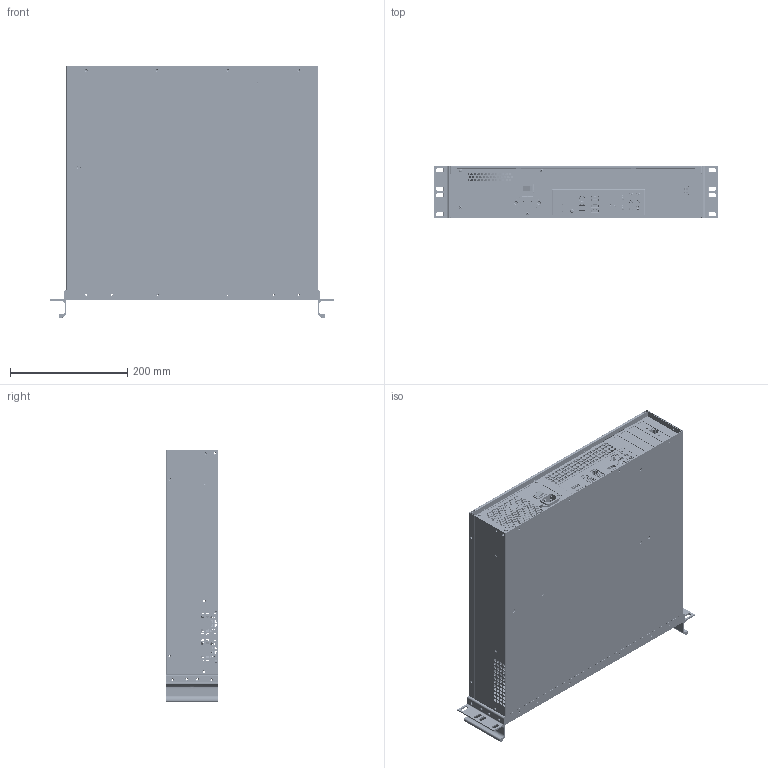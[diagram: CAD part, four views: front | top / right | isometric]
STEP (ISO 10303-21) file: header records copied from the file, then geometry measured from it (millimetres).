
FILE_DESCRIPTION (( 'STEP AP214' ), '1' );
FILE_NAME ('鼫謼歑 IS-R-50.STEP', '2024-09-22T09:56:58', ( '' ), ( '' ), 'SwSTEP 2.0', 'SolidWorks 2024', '' );
FILE_SCHEMA (( 'AUTOMOTIVE_DESIGN' ));
Length unit declared in the file: millimetre
Products named in the file (59): JAF3331-51G3-outter shield.STEP; Ventax 119x119x26.IGS; USB 3 (4).step; USB Type-A  & Type-C .step; UB11123-HFD1-4F.stp-1; Switch on-off.IGS; 92000A114_Passivated 18-8 Stainless Steel Pan Head Phillips Screws.step-2; AS1166 PCIex sata x4_gecnjq; MSI-B550M-Mortar-WiFi-IO-Shield.step; JAF3331-51G3.STEP; Outer shell 01.step; JAF3331-51G3-FRONT SUPPRT.STEP; USB Type A contacts.step; ATX Power Supply v1.0; JFM38U1B-B3V9-4F.stp-1; Панель задняя; POF ASM.STEP; SMA Jack Bulkhead small nut; JAF3331-51G3-all pins.STEP; JAF3331-51G3ports.STEP; PCIe Brakets_PCIE card IO panel lowprofil.step-1_gecnjq; Box v1.0 - ATX Power Supply.IGS; Сборка14^gigabyte b360n wifi; RJ45 v1 v2.step-1; JAF3331-51G3; pan head cross recess screw_iso_ISO 7045 - M3 x 6 - Z - 6N; eBom-FreeParts.step; JAF3331-51G3-back part.STEP; Foam Backing.step; Cover v1.0 - ATX Power Supply.IGS; PCIe_x4_LowProfile.step-1; сервер IS-R-50; Grelha Prot Vent 120.IGS; Платформа; Back Pins.step; molex_0471510001.stp-1; IEC Plug.IGS; HeatSink.step-1; molex_0471510001.stp-2; 40x40x 20 cooler v4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
Assembly tree (77 placements, depth 6):
  сервер IS-R-50
    Панель задняя
    Панель передняя
    Платформа
    Крышка
    40x40x 20 cooler v4
    Панель USB
    Фланец  x2
    ATX Power Supply v1.0
      ATX Power Supply v1.0.IGS
        Box v1.0 - ATX Power Supply.IGS
        Cover v1.0 - ATX Power Supply.IGS
        Grelha Prot Vent 120.IGS
        IEC Plug.IGS
        Switch on-off.IGS
        Ventax 119x119x26.IGS
        Casq.IGS
    MSI-B550M-Mortar-WiFi-IO-Shield
      MSI-B550M-Mortar-WiFi-IO-Shield.step
        MSI B550M Mortar WiFi I_O Shield.step
          Shield.step
          Foam Backing.step
        eBom-FreeParts.step
      Сборка14^gigabyte b360n wifi
        molex_0471510001.stp-1
        molex_0471510001.stp-2
        кожух hdmi.stp-1
      UB11123-HFD1-4F.stp-1
      JFM38U1B-B3V9-4F.stp-1
      JAF3331-51G3
        JAF3331-51G3.STEP
          JAF3331-51G3-back part.STEP
          POF ASM.STEP
          JAF3331-51G3-all pins.STEP
          JAF3331-51G3-FRONT SUPPRT.STEP
          JAF3331-51G3ports.STEP
          JAF3331-51G3-outter shield.STEP
      USB Type-A  & Type-C
        USB Type-A  & Type-C .step
          USB Type A contacts.step
            USB 3 (3).step  x4
            USB 3 (4).step  x5
          Outer shell 01.step
          Outer shell 02.step
          Back Pins.step
          Type C inner.step
          Inner Plastic.step
      SMA Jack Bulkhead small nut  x2
      Ryjgrf
    pan head cross recess screw_iso_ISO 7045 - M3 x 6 - Z - 6N  x4
    AS1166 PCIex sata x4
      PCIe_x4_LowProfile.step-1
      92000A114_Passivated 18-8 Stainless Steel Pan Head Phillips Screws.step-1
      92000A114_Passivated 18-8 Stainless Steel Pan Head Phillips Screws.step-2
      HeatSink.step-1
      PCIe Brakets_PCIE card IO panel lowprofil.step-1
      RJ45 v1 v2.step-1
    AS1166 PCIex sata x4_gecnjq  x3
      PCIe_x4_LowProfile.step-1
      92000A114_Passivated 18-8 Stainless Steel Pan Head Phillips Screws.step-1
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Bounding box: 485.72 x 88 x 431.35 mm (x, y, z)
Volume: 840768.4 mm3; surface area: 1518773.5 mm2
Topology: 380 solids, 417 shells, 29185 faces, 80583 edges, 52138 vertices
Faces by surface type: plane 18836, cylinder 5394, bspline 4226, cone 366, torus 315, sphere 48
Entity records: 1032256 total; most frequent: CARTESIAN_POINT 266935, ORIENTED_EDGE 144906, DIRECTION 108674, EDGE_CURVE 72474, VECTOR 49080, LINE 49080, VERTEX_POINT 46939, AXIS2_PLACEMENT_3D 29797
